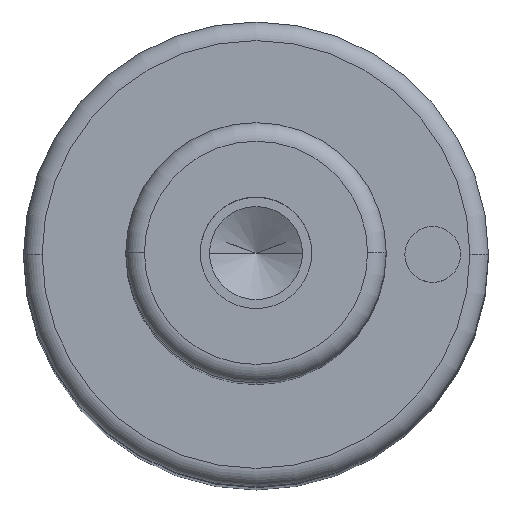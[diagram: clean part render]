
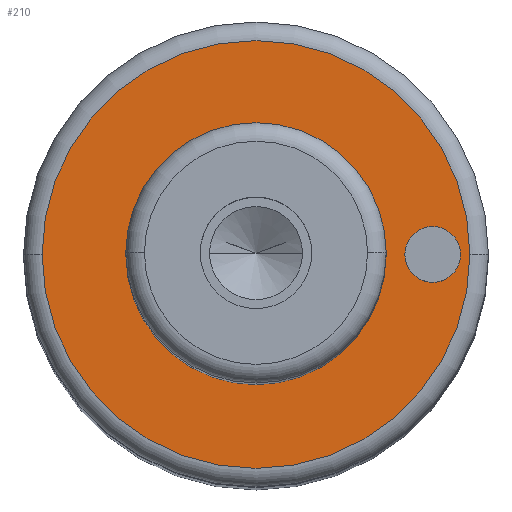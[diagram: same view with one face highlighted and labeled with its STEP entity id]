
A CAD part, top view. The second image highlights one B-rep face of the part: STEP entity #210.
In plain terms, the highlighted planar face has unit normal (0, 0, 1).
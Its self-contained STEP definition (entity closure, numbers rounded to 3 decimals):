
#99=PLANE('',#660);
#107=FACE_BOUND('',#285,.T.);
#108=FACE_BOUND('',#286,.T.);
#109=FACE_BOUND('',#287,.T.);
#210=ADVANCED_FACE('',(#107,#108,#109),#99,.T.);
#285=EDGE_LOOP('',(#395,#396));
#286=EDGE_LOOP('',(#397,#398));
#287=EDGE_LOOP('',(#399,#400));
#395=ORIENTED_EDGE('',*,*,#500,.F.);
#396=ORIENTED_EDGE('',*,*,#501,.F.);
#397=ORIENTED_EDGE('',*,*,#533,.F.);
#398=ORIENTED_EDGE('',*,*,#534,.F.);
#399=ORIENTED_EDGE('',*,*,#496,.T.);
#400=ORIENTED_EDGE('',*,*,#494,.T.);
#447=VERTEX_POINT('',#894);
#448=VERTEX_POINT('',#896);
#449=VERTEX_POINT('',#902);
#452=VERTEX_POINT('',#907);
#470=VERTEX_POINT('',#977);
#471=VERTEX_POINT('',#978);
#494=EDGE_CURVE('',#448,#447,#561,.T.);
#496=EDGE_CURVE('',#447,#448,#562,.T.);
#500=EDGE_CURVE('',#452,#449,#566,.T.);
#501=EDGE_CURVE('',#449,#452,#567,.T.);
#533=EDGE_CURVE('',#470,#471,#587,.T.);
#534=EDGE_CURVE('',#471,#470,#588,.T.);
#561=CIRCLE('',#612,7.);
#562=CIRCLE('',#614,7.);
#566=CIRCLE('',#619,11.5);
#567=CIRCLE('',#621,11.5);
#587=CIRCLE('',#658,1.5);
#588=CIRCLE('',#659,1.5);
#612=AXIS2_PLACEMENT_3D('',#895,#711,#712);
#614=AXIS2_PLACEMENT_3D('',#899,#716,#717);
#619=AXIS2_PLACEMENT_3D('',#908,#726,#727);
#621=AXIS2_PLACEMENT_3D('',#910,#730,#731);
#658=AXIS2_PLACEMENT_3D('',#976,#816,#817);
#659=AXIS2_PLACEMENT_3D('',#979,#818,#819);
#660=AXIS2_PLACEMENT_3D('',#980,#820,#821);
#711=DIRECTION('',(0.,0.,-1.));
#712=DIRECTION('',(0.,1.,0.));
#716=DIRECTION('',(0.,0.,-1.));
#717=DIRECTION('',(0.,-1.,0.));
#726=DIRECTION('',(0.,0.,-1.));
#727=DIRECTION('',(0.,1.,0.));
#730=DIRECTION('',(0.,0.,-1.));
#731=DIRECTION('',(0.,-1.,0.));
#816=DIRECTION('',(0.,0.,1.));
#817=DIRECTION('',(0.,1.,0.));
#818=DIRECTION('',(0.,0.,1.));
#819=DIRECTION('',(0.,-1.,0.));
#820=DIRECTION('',(0.,0.,1.));
#821=DIRECTION('',(0.,-1.,0.));
#894=CARTESIAN_POINT('',(-7.,0.,94.));
#895=CARTESIAN_POINT('',(0.,0.,94.));
#896=CARTESIAN_POINT('',(7.,0.,94.));
#899=CARTESIAN_POINT('',(0.,0.,94.));
#902=CARTESIAN_POINT('',(-11.5,0.,94.));
#907=CARTESIAN_POINT('',(11.5,0.,94.));
#908=CARTESIAN_POINT('',(0.,0.,94.));
#910=CARTESIAN_POINT('',(0.,0.,94.));
#976=CARTESIAN_POINT('',(9.5,0.,94.));
#977=CARTESIAN_POINT('',(8.,0.,94.));
#978=CARTESIAN_POINT('',(11.,0.,94.));
#979=CARTESIAN_POINT('',(9.5,0.,94.));
#980=CARTESIAN_POINT('',(0.,0.,94.));
